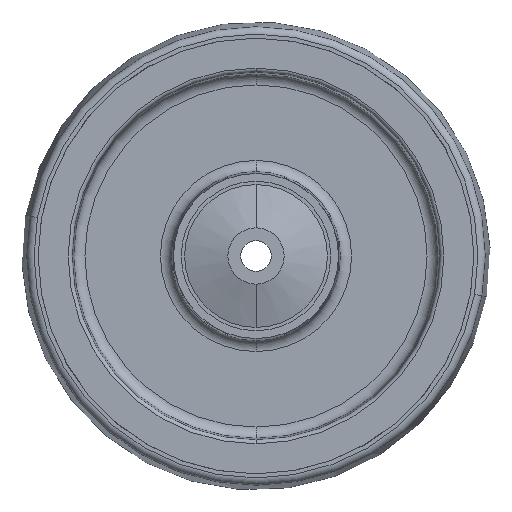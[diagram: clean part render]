
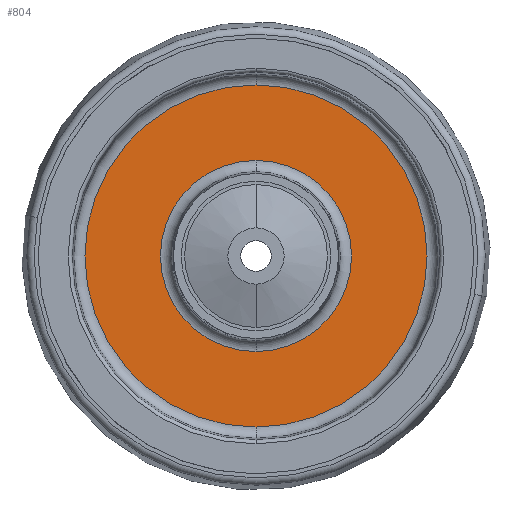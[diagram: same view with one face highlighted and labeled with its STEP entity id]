
A CAD part, left-side view. The second image highlights one B-rep face of the part: STEP entity #804.
In plain terms, the highlighted planar face has unit normal (-1, 0, 0).
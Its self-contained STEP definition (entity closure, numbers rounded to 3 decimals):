
#216 = CARTESIAN_POINT ( 'NONE',  ( -11.722, 1.042, 54.692 ) ) ;
#219 = CARTESIAN_POINT ( 'NONE',  ( -11.722, 1.042, 9.145 ) ) ;
#220 = CARTESIAN_POINT ( 'NONE',  ( -11.722, 1.042, -36.403 ) ) ;
#230 = CIRCLE ( 'NONE', #246, 45.548 ) ;
#244 = DIRECTION ( 'NONE',  ( 0., 0., 1. ) ) ;
#245 = DIRECTION ( 'NONE',  ( -1., 0., 0. ) ) ;
#246 = AXIS2_PLACEMENT_3D ( 'NONE', #219, #245, #244 ) ;
#254 = DIRECTION ( 'NONE',  ( 0., 0., 1. ) ) ;
#255 = DIRECTION ( 'NONE',  ( -1., 0., 0. ) ) ;
#256 = CARTESIAN_POINT ( 'NONE',  ( -11.722, 1.042, 9.145 ) ) ;
#257 = AXIS2_PLACEMENT_3D ( 'NONE', #256, #255, #254 ) ;
#258 = CIRCLE ( 'NONE', #257, 25.452 ) ;
#268 = CARTESIAN_POINT ( 'NONE',  ( -11.722, 1.042, 34.597 ) ) ;
#289 = CARTESIAN_POINT ( 'NONE',  ( -11.722, 1.042, -16.307 ) ) ;
#711 = ORIENTED_EDGE ( 'NONE', *, *, #715, .F. ) ;
#715 = EDGE_CURVE ( 'NONE', #934, #886, #1848, .T. ) ;
#730 = EDGE_LOOP ( 'NONE', ( #807, #810 ) ) ;
#731 = EDGE_LOOP ( 'NONE', ( #711, #808 ) ) ;
#804 = ADVANCED_FACE ( 'NONE', ( #1835, #1695 ), #1841, .F. ) ;
#807 = ORIENTED_EDGE ( 'NONE', *, *, #809, .T. ) ;
#808 = ORIENTED_EDGE ( 'NONE', *, *, #931, .F. ) ;
#809 = EDGE_CURVE ( 'NONE', #1003, #1002, #1834, .T. ) ;
#810 = ORIENTED_EDGE ( 'NONE', *, *, #997, .T. ) ;
#886 = VERTEX_POINT ( 'NONE', #289 ) ;
#931 = EDGE_CURVE ( 'NONE', #886, #934, #258, .T. ) ;
#934 = VERTEX_POINT ( 'NONE', #268 ) ;
#997 = EDGE_CURVE ( 'NONE', #1002, #1003, #230, .T. ) ;
#1002 = VERTEX_POINT ( 'NONE', #220 ) ;
#1003 = VERTEX_POINT ( 'NONE', #216 ) ;
#1692 = AXIS2_PLACEMENT_3D ( 'NONE', #1806, #1805, #1804 ) ;
#1695 = FACE_OUTER_BOUND ( 'NONE', #730, .T. ) ;
#1804 = DIRECTION ( 'NONE',  ( 0., 0., 1. ) ) ;
#1805 = DIRECTION ( 'NONE',  ( -1., 0., 0. ) ) ;
#1806 = CARTESIAN_POINT ( 'NONE',  ( -11.722, 1.042, 9.145 ) ) ;
#1817 = DIRECTION ( 'NONE',  ( 0., 0., 1. ) ) ;
#1818 = DIRECTION ( 'NONE',  ( -1., 0., 0. ) ) ;
#1819 = CARTESIAN_POINT ( 'NONE',  ( -11.722, 1.042, 9.145 ) ) ;
#1829 = DIRECTION ( 'NONE',  ( 0., 0., -1. ) ) ;
#1830 = DIRECTION ( 'NONE',  ( 1., 0., 0. ) ) ;
#1831 = CARTESIAN_POINT ( 'NONE',  ( -11.722, 26.494, 9.145 ) ) ;
#1832 = AXIS2_PLACEMENT_3D ( 'NONE', #1831, #1830, #1829 ) ;
#1834 = CIRCLE ( 'NONE', #1692, 45.548 ) ;
#1835 = FACE_BOUND ( 'NONE', #731, .T. ) ;
#1841 = PLANE ( 'NONE',  #1832 ) ;
#1843 = AXIS2_PLACEMENT_3D ( 'NONE', #1819, #1818, #1817 ) ;
#1848 = CIRCLE ( 'NONE', #1843, 25.452 ) ;
